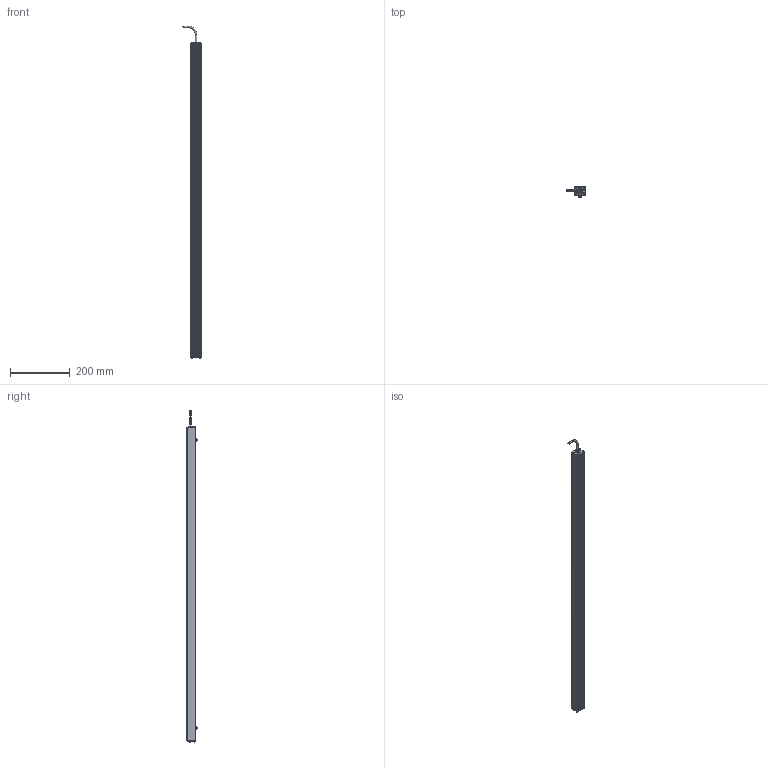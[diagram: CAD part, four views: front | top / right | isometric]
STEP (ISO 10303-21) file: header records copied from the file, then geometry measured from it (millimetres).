
FILE_DESCRIPTION (( 'STEP AP214' ), '1' );
FILE_NAME ('AL150XXXX_AL150240.stp', '2021-04-29T15:41:28', ( '' ), ( '' ), 'SwSTEP 2.0', 'SolidWorks 2018', '' );
FILE_SCHEMA (( 'AUTOMOTIVE_DESIGN' ));
Length unit declared in the file: inch
Products named in the file (12): 150-03-006-XXXX_150-03-006-240; 116-02-007; 093145_93701A253; CHM6x8_91460A312; 116-02-006; 1157 (no strap); 150-01-005-XXX_150-01-005-240; HN-M6_90592A016; Part2^AL150XXXX; 092408_TRUNCATED; Part1^AL150XXXX; AL150XXXX_AL150240
Assembly tree (18 placements, depth 2):
  Part2^AL150XXXX
  Part1^AL150XXXX
  AL150XXXX_AL150240
    150-01-005-XXX_150-01-005-240
    116-02-006
    093145_93701A253  x8
    HN-M6_90592A016  x2
    CHM6x8_91460A312  x2
    150-03-006-XXXX_150-03-006-240
    116-02-007
    1157 (no strap)
    092408_TRUNCATED
Bounding box: 60.68 x 33.84 x 1112.06 mm (x, y, z)
Volume: 328722.4 mm3; surface area: 348890.9 mm2
Topology: 26 solids, 26 shells, 1306 faces, 3436 edges, 2127 vertices
Faces by surface type: cylinder 805, cone 249, plane 153, torus 59, bspline 32, sphere 8
Entity records: 18285 total; most frequent: CARTESIAN_POINT 6069, ORIENTED_EDGE 2496, DIRECTION 2311, EDGE_CURVE 1248, AXIS2_PLACEMENT_3D 881, VERTEX_POINT 800, VECTOR 549, LINE 549
